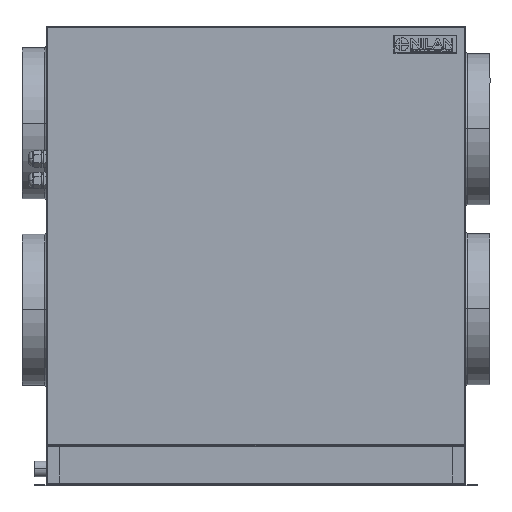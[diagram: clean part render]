
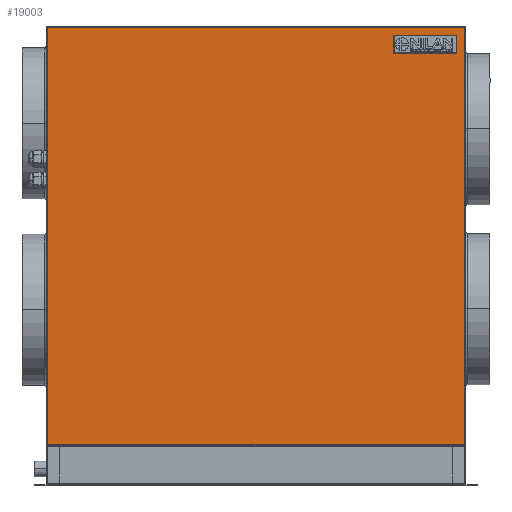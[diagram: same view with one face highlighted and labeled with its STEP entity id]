
A CAD part, top view. The second image highlights one B-rep face of the part: STEP entity #19003.
In plain terms, the highlighted planar face has unit normal (0, 0, 1).
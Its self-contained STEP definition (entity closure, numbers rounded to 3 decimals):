
#110 = DIRECTION ( 'NONE',  ( -1., 0., 0. ) ) ;
#127 = EDGE_CURVE ( 'NONE', #16446, #20758, #9445, .T. ) ;
#899 = ORIENTED_EDGE ( 'NONE', *, *, #15731, .T. ) ;
#1166 = CARTESIAN_POINT ( 'NONE',  ( -348.2, -348.1, 0.9 ) ) ;
#1658 = ORIENTED_EDGE ( 'NONE', *, *, #19948, .T. ) ;
#3824 = CARTESIAN_POINT ( 'NONE',  ( 348.2, 348.1, 0.9 ) ) ;
#9200 = LINE ( 'NONE', #9990, #11265 ) ;
#9445 = LINE ( 'NONE', #17495, #14811 ) ;
#9470 = DIRECTION ( 'NONE',  ( 1., 0., 0. ) ) ;
#9665 = VERTEX_POINT ( 'NONE', #3824 ) ;
#9990 = CARTESIAN_POINT ( 'NONE',  ( 3840.1, 348.1, 0.9 ) ) ;
#10053 = LINE ( 'NONE', #13511, #10560 ) ;
#10560 = VECTOR ( 'NONE', #18548, 1000. ) ;
#10824 = EDGE_CURVE ( 'NONE', #20758, #9665, #14245, .T. ) ;
#11136 = DIRECTION ( 'NONE',  ( 1., 0., 0. ) ) ;
#11206 = CARTESIAN_POINT ( 'NONE',  ( -349.1, -349., 0.9 ) ) ;
#11265 = VECTOR ( 'NONE', #110, 1000. ) ;
#11413 = CARTESIAN_POINT ( 'NONE',  ( -348.2, 348.1, 0.9 ) ) ;
#13511 = CARTESIAN_POINT ( 'NONE',  ( -348.2, 349., 0.9 ) ) ;
#13755 = ORIENTED_EDGE ( 'NONE', *, *, #10824, .T. ) ;
#14245 = LINE ( 'NONE', #18911, #19658 ) ;
#14652 = FACE_OUTER_BOUND ( 'NONE', #20503, .T. ) ;
#14811 = VECTOR ( 'NONE', #9470, 1000. ) ;
#15731 = EDGE_CURVE ( 'NONE', #20257, #16446, #10053, .T. ) ;
#16446 = VERTEX_POINT ( 'NONE', #1166 ) ;
#17096 = DIRECTION ( 'NONE',  ( 0., 1., 0. ) ) ;
#17495 = CARTESIAN_POINT ( 'NONE',  ( -349.1, -348.1, 0.9 ) ) ;
#17810 = DIRECTION ( 'NONE',  ( 0., 0., 1. ) ) ;
#17838 = CARTESIAN_POINT ( 'NONE',  ( 348.2, -348.1, 0.9 ) ) ;
#18548 = DIRECTION ( 'NONE',  ( 0., -1., 0. ) ) ;
#18911 = CARTESIAN_POINT ( 'NONE',  ( 348.2, 0., 0.9 ) ) ;
#19003 = ADVANCED_FACE ( 'NONE', ( #14652 ), #21003, .T. ) ;
#19533 = AXIS2_PLACEMENT_3D ( 'NONE', #11206, #17810, #11136 ) ;
#19658 = VECTOR ( 'NONE', #17096, 1000. ) ;
#19948 = EDGE_CURVE ( 'NONE', #9665, #20257, #9200, .T. ) ;
#20257 = VERTEX_POINT ( 'NONE', #11413 ) ;
#20503 = EDGE_LOOP ( 'NONE', ( #13755, #1658, #899, #20562 ) ) ;
#20562 = ORIENTED_EDGE ( 'NONE', *, *, #127, .T. ) ;
#20758 = VERTEX_POINT ( 'NONE', #17838 ) ;
#21003 = PLANE ( 'NONE',  #19533 ) ;
